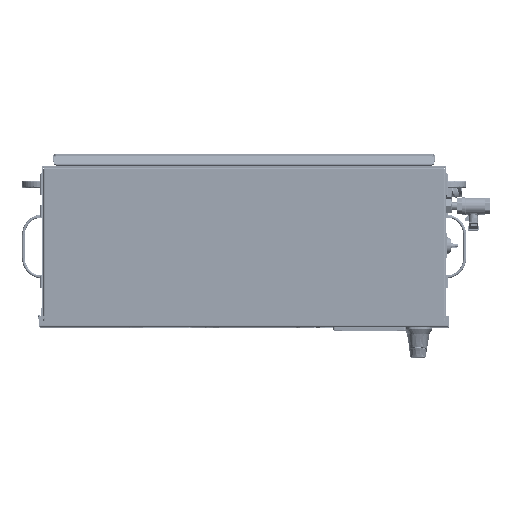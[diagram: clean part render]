
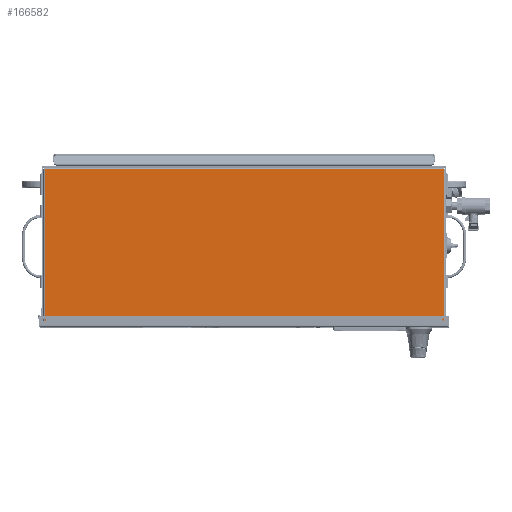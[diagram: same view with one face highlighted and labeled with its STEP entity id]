
A CAD part, top view. The second image highlights one B-rep face of the part: STEP entity #166582.
In plain terms, the highlighted planar face has unit normal (0, 0, 1).
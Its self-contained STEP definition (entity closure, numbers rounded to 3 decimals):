
#7715=FACE_OUTER_BOUND('',#16704,.T.);
#16704=EDGE_LOOP('',(#105367,#105368,#105369,#105370,#105371,#105372));
#30963=LINE('',#234660,#47712);
#30978=LINE('',#234701,#47727);
#30979=LINE('',#234703,#47728);
#30984=LINE('',#234721,#47733);
#30995=LINE('',#234744,#47744);
#30996=LINE('',#234745,#47745);
#47712=VECTOR('',#189933,39.37);
#47727=VECTOR('',#189974,39.37);
#47728=VECTOR('',#189977,39.37);
#47733=VECTOR('',#189996,39.37);
#47744=VECTOR('',#190021,39.37);
#47745=VECTOR('',#190022,39.37);
#64539=VERTEX_POINT('',#234613);
#64552=VERTEX_POINT('',#234652);
#64563=VERTEX_POINT('',#234693);
#64566=VERTEX_POINT('',#234699);
#64572=VERTEX_POINT('',#234719);
#64577=VERTEX_POINT('',#234743);
#80488=EDGE_CURVE('',#64539,#64552,#30963,.T.);
#80508=EDGE_CURVE('',#64563,#64566,#30978,.T.);
#80509=EDGE_CURVE('',#64552,#64563,#30979,.T.);
#80518=EDGE_CURVE('',#64566,#64572,#30984,.T.);
#80529=EDGE_CURVE('',#64572,#64577,#30995,.T.);
#80530=EDGE_CURVE('',#64577,#64539,#30996,.T.);
#105367=ORIENTED_EDGE('',*,*,#80508,.T.);
#105368=ORIENTED_EDGE('',*,*,#80518,.T.);
#105369=ORIENTED_EDGE('',*,*,#80529,.T.);
#105370=ORIENTED_EDGE('',*,*,#80530,.T.);
#105371=ORIENTED_EDGE('',*,*,#80488,.T.);
#105372=ORIENTED_EDGE('',*,*,#80509,.T.);
#151905=PLANE('',#175967);
#166582=ADVANCED_FACE('',(#7715),#151905,.T.);
#175967=AXIS2_PLACEMENT_3D('',#234742,#190019,#190020);
#189933=DIRECTION('',(-1.,0.,0.));
#189974=DIRECTION('',(1.,0.,0.));
#189977=DIRECTION('',(0.,-1.,0.));
#189996=DIRECTION('',(1.,0.,0.));
#190019=DIRECTION('center_axis',(0.,0.,
1.));
#190020=DIRECTION('ref_axis',(-1.,0.,0.));
#190021=DIRECTION('',(1.,0.,0.));
#190022=DIRECTION('',(0.,1.,0.));
#234613=CARTESIAN_POINT('',(13.817,-0.202,21.));
#234652=CARTESIAN_POINT('',(-13.779,-0.202,21.));
#234660=CARTESIAN_POINT('',(13.856,-0.202,21.));
#234693=CARTESIAN_POINT('',(-13.779,-10.887,21.));
#234699=CARTESIAN_POINT('',(-13.384,-10.887,21.));
#234701=CARTESIAN_POINT('',(-13.818,-10.887,21.));
#234703=CARTESIAN_POINT('',(-13.779,-0.202,21.));
#234719=CARTESIAN_POINT('',(13.422,-10.887,21.));
#234721=CARTESIAN_POINT('',(-13.384,-10.887,21.));
#234742=CARTESIAN_POINT('Origin',(13.856,-0.163,21.));
#234743=CARTESIAN_POINT('',(13.817,-10.887,21.));
#234744=CARTESIAN_POINT('',(-13.818,-10.887,21.));
#234745=CARTESIAN_POINT('',(13.817,-10.887,21.));
